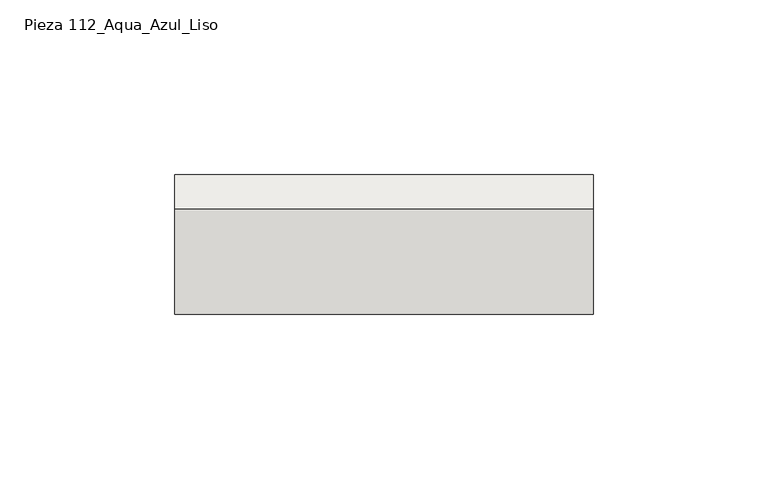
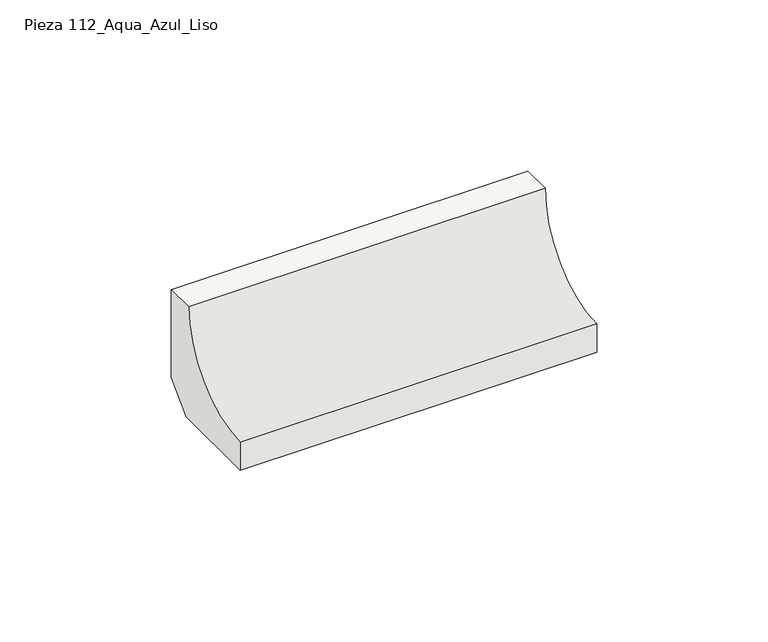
"""IFC4 building model written with IfcOpenShell, lengths in millimetres: slab geometry, ROSA GRES_112 : Pieza 112_Aqua_Azul_Liso."""

from ifc_helpers import new_model, si_unit, point, frame, frame_2d, origin, place, context, project, spatial, polyline, circle_curve, trimmed, segment, composite_curve, outline, extrude, source, transform, mapped, element, save


def pieza_112_aqua_azul_liso_16b9f8b8(model_context):
    return source(origin(), model_context, "Body", "SweptSolid", [
        extrude(outline(composite_curve([segment(polyline([(0.0, 8.7114978), (-8.7114978, 0.0), (-40.0, 0.0), (-40.0, 9.9734114)]), True, "CONTINUOUS"), segment(trimmed(circle_curve(frame_2d((-39.9955547, 39.9955547)), 30.0221435), [point((-40.0, 9.9734114))], [point((-9.9734114, 40.0))], True, "CARTESIAN"), True, "CONTINUOUS"), segment(polyline([(-9.9734114, 40.0), (0.0, 40.0), (0.0, 8.7114978)]), True, "CONTINUOUS")], self_intersect=False)), frame((0.0, 0.0, 0.0), z_axis=(1.0, 0.0, 0.0), x_axis=(0.0, 1.0, 0.0)), (0.0, 0.0, 1.0), 120.000052),
    ])


if __name__ == "__main__":
    model = new_model("IFC4")
    model_context = context("Model", 3, world=origin())
    ifc_project = project(units=[si_unit("LENGTHUNIT", "METRE", prefix="MILLI")], contexts=[model_context])
    site = spatial("IfcSite", under=ifc_project)
    building = spatial("IfcBuilding", under=site)
    placement = place(None, origin())
    pieza_112_aqua_azul_liso_shape = pieza_112_aqua_azul_liso_16b9f8b8(model_context)
    element("IfcSlab", 1, ObjectType="ROSA GRES_112 : Pieza 112_Aqua_Azul_Liso", at=placement, inside=building, context=model_context, shape_type="MappedRepresentation", body=[
        mapped(pieza_112_aqua_azul_liso_shape, transform((0.0, 0.0, 0.0), x_axis=(1.0, 0.0, 0.0), y_axis=(0.0, 1.0, 0.0), z_axis=(0.0, 0.0, 1.0))),
    ])
    save(model, "model.ifc")
